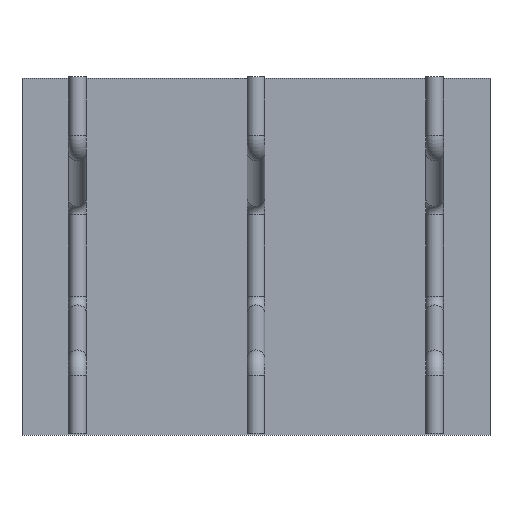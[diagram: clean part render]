
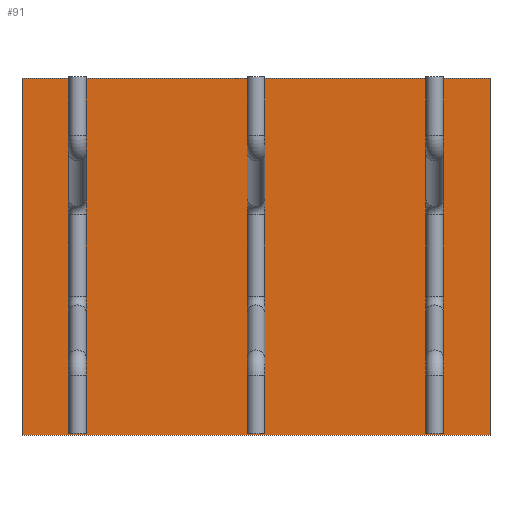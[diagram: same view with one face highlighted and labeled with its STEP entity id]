
A CAD part, top view. The second image highlights one B-rep face of the part: STEP entity #91.
In plain terms, the highlighted planar face has unit normal (0, 0, 1).
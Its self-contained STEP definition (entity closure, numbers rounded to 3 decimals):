
#52=CARTESIAN_POINT('Axis2P3D Location',(0.,0.,0.)) ;
#57=CARTESIAN_POINT('Line Origine',(0.,500.,0.)) ;
#61=CARTESIAN_POINT('Vertex',(655.,500.,0.)) ;
#63=CARTESIAN_POINT('Vertex',(-655.,500.,0.)) ;
#66=CARTESIAN_POINT('Line Origine',(-655.,0.,0.)) ;
#70=CARTESIAN_POINT('Vertex',(-655.,-500.,0.)) ;
#73=CARTESIAN_POINT('Line Origine',(0.,-500.,0.)) ;
#77=CARTESIAN_POINT('Vertex',(655.,-500.,0.)) ;
#80=CARTESIAN_POINT('Line Origine',(655.,0.,0.)) ;
#53=DIRECTION('Axis2P3D Direction',(0.,0.,1.)) ;
#54=DIRECTION('Axis2P3D XDirection',(1.,0.,0.)) ;
#58=DIRECTION('Vector Direction',(1.,0.,0.)) ;
#67=DIRECTION('Vector Direction',(0.,1.,0.)) ;
#74=DIRECTION('Vector Direction',(-1.,0.,0.)) ;
#81=DIRECTION('Vector Direction',(0.,-1.,0.)) ;
#55=AXIS2_PLACEMENT_3D('Plane Axis2P3D',#52,#53,#54) ;
#86=ORIENTED_EDGE('',*,*,#65,.T.) ;
#87=ORIENTED_EDGE('',*,*,#72,.T.) ;
#88=ORIENTED_EDGE('',*,*,#79,.T.) ;
#89=ORIENTED_EDGE('',*,*,#84,.T.) ;
#59=VECTOR('Line Direction',#58,1.) ;
#68=VECTOR('Line Direction',#67,1.) ;
#75=VECTOR('Line Direction',#74,1.) ;
#82=VECTOR('Line Direction',#81,1.) ;
#91=ADVANCED_FACE('Fill.1',(#90),#56,.T.) ;
#65=EDGE_CURVE('',#62,#64,#60,.F.) ;
#72=EDGE_CURVE('',#64,#71,#69,.F.) ;
#79=EDGE_CURVE('',#71,#78,#76,.F.) ;
#84=EDGE_CURVE('',#78,#62,#83,.F.) ;
#85=EDGE_LOOP('',(#86,#87,#88,#89)) ;
#90=FACE_OUTER_BOUND('',#85,.T.) ;
#60=LINE('Line',#57,#59) ;
#69=LINE('Line',#66,#68) ;
#76=LINE('Line',#73,#75) ;
#83=LINE('Line',#80,#82) ;
#56=PLANE('',#55) ;
#62=VERTEX_POINT('',#61) ;
#64=VERTEX_POINT('',#63) ;
#71=VERTEX_POINT('',#70) ;
#78=VERTEX_POINT('',#77) ;
